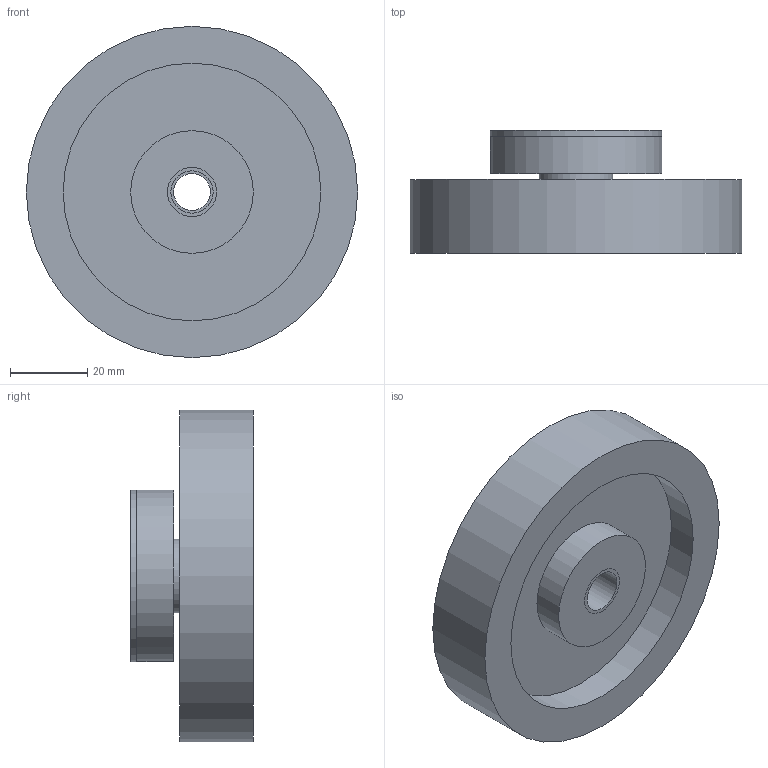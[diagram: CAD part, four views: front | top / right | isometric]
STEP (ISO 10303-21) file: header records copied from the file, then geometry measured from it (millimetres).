
FILE_DESCRIPTION(/* description */ (''),/* implementation_level */ '2;1');
FILE_NAME(/* name */ 'C:\2014_Work\Designs\NPS40.stp',/* time_stamp */ '2014-04-16T10:09:38-04:00',/* author */ ('mleuck'),/* organization */ (''),/* preprocessor_version */ 'ST-DEVELOPER v15.2',/* originating_system */ 'Autodesk Inventor 2014',/* authorisation */ '');
FILE_SCHEMA (('AUTOMOTIVE_DESIGN { 1 0 10303 214 3 1 1 }'));
Length unit declared in the file: inch
Products named in the file (5): A-17951-2 NPS 30 MOLDED RUBBER 1; A-17951-2 NPS 30 MOLDED RUBBER 2; A-17951-2 NPS 30 WASHER; ASTM A 269 Tube 1_2 x 0.035 - 1.1875; A-17951-2 NPS 40
Bounding box: 85.72 x 31.75 x 85.72 mm (x, y, z)
Volume: 81378.2 mm3; surface area: 33114.5 mm2
Topology: 4 solids, 4 shells, 26 faces, 39 edges, 26 vertices
Faces by surface type: plane 13, cylinder 13
Full cylindrical faces by diameter (mm): 9.525 x1, 10.922 x1, 12.7 x2, 19.05 x1, 20.637 x1, 31.75 x2, 44.45 x2, 66.675 x2, 85.725 x1
Entity records: 663 total; most frequent: DIRECTION 122, CARTESIAN_POINT 87, AXIS2_PLACEMENT_3D 61, EDGE_LOOP 52, ORIENTED_EDGE 52, FACE_BOUND 34, CIRCLE 26, VERTEX_POINT 26
